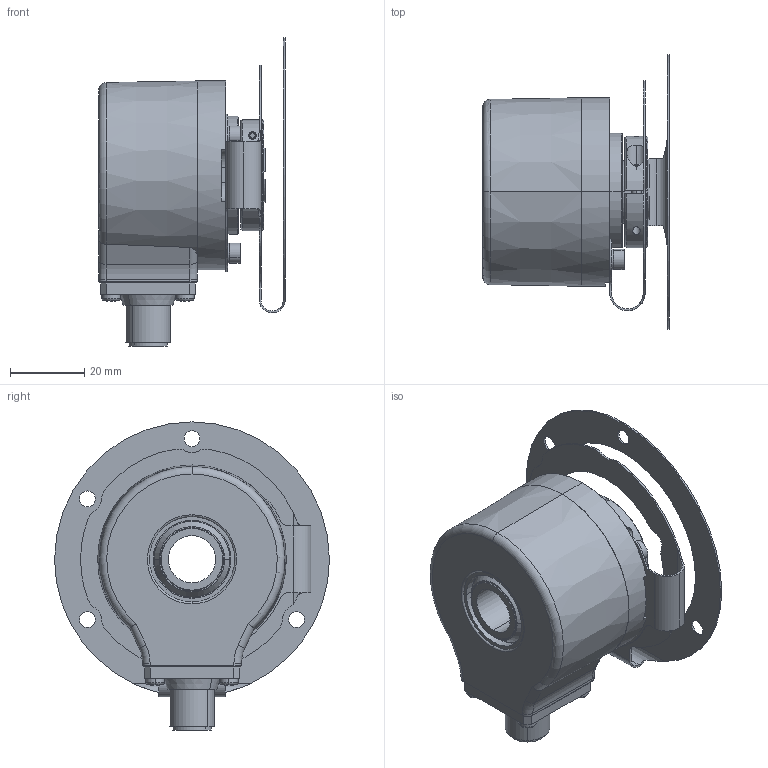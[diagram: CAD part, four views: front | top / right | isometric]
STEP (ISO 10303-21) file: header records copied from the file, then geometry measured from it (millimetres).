
FILE_DESCRIPTION (( 'STEP AP203' ), '1' );
FILE_NAME ('8.5020.86X2.XXXX.STEP', '2017-02-14T06:39:36', ( '' ), ( '' ), 'SwSTEP 2.0', 'SolidWorks 2013', '' );
FILE_SCHEMA (( 'CONFIG_CONTROL_DESIGN' ));
Length unit declared in the file: millimetre
Products named in the file (1): 8.5020.86X2.XXXX
Bounding box: 50.2 x 74 x 83 mm (x, y, z)
Volume: 43535.4 mm3; surface area: 45697.1 mm2
Topology: 20 solids, 21 shells, 834 faces, 2091 edges, 1300 vertices
Faces by surface type: cylinder 321, plane 249, cone 125, torus 65, sphere 64, bspline 10
Entity records: 26030 total; most frequent: CARTESIAN_POINT 6280, DIRECTION 4381, ORIENTED_EDGE 3902, EDGE_CURVE 1951, AXIS2_PLACEMENT_3D 1801, VERTEX_POINT 1230, EDGE_LOOP 993, CIRCLE 976
